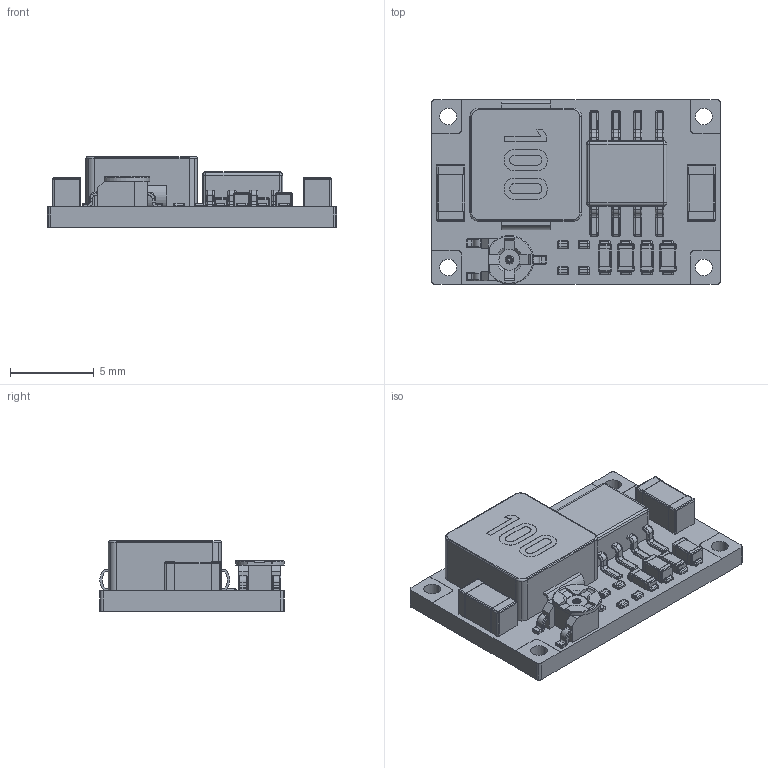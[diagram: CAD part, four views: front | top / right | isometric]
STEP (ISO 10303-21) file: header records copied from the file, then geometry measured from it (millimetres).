
FILE_DESCRIPTION (( 'STEP AP214' ), '1' );
FILE_NAME ('DSN-MINI-360.STEP', '2026-07-10T06:37:19', ( '' ), ( '' ), 'SwSTEP 2.0', 'SolidWorks 2026', '' );
FILE_SCHEMA (( 'AUTOMOTIVE_DESIGN' ));
Length unit declared in the file: millimetre
Products named in the file (1): DSN-MINI-360
Bounding box: 17.25 x 11 x 4.21 mm (x, y, z)
Volume: 434.8 mm3; surface area: 917 mm2
Topology: 50 solids, 50 shells, 1737 faces, 4206 edges, 2605 vertices
Faces by surface type: plane 677, cylinder 643, bspline 251, sphere 104, torus 58, cone 4
Entity records: 72213 total; most frequent: CARTESIAN_POINT 12690, ORIENTED_EDGE 8412, DIRECTION 8117, EDGE_CURVE 4206, AXIS2_PLACEMENT_3D 2908, VERTEX_POINT 2605, VECTOR 2301, LINE 2301
